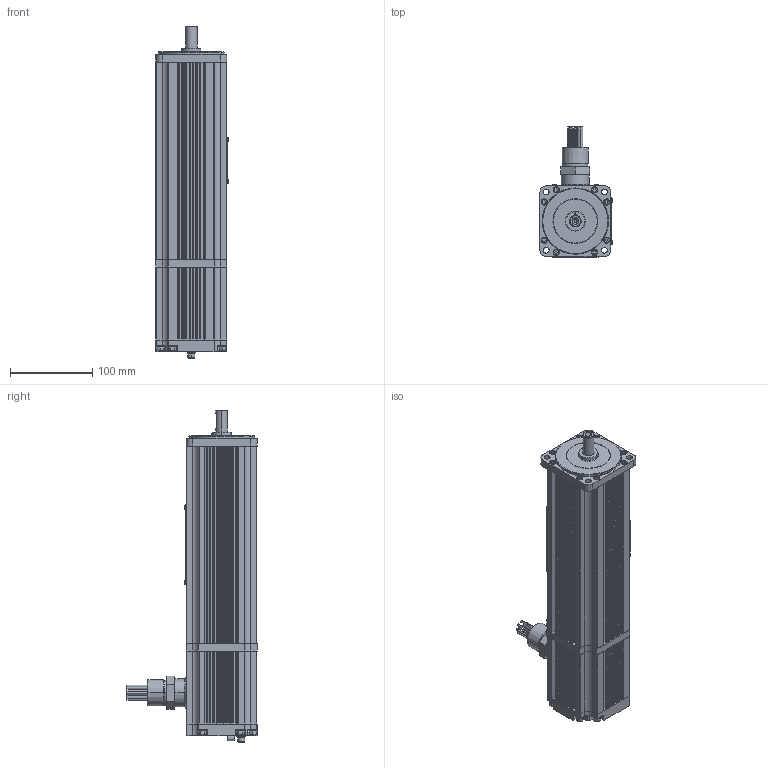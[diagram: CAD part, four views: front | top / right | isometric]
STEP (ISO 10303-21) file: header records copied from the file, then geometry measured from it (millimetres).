
FILE_DESCRIPTION (( 'STEP AP203' ), '1' );
FILE_NAME ('M433-MNN0-CG08.STEP', '2010-09-20T14:07:04', ( '' ), ( '' ), 'SwSTEP 2.0', 'SolidWorks 2010', '' );
FILE_SCHEMA (( 'CONFIG_CONTROL_DESIGN' ));
Length unit declared in the file: inch
Products named in the file (1): M433-MNN0-CG08
Bounding box: 87.61 x 157.81 x 402.94 mm (x, y, z)
Surface area: 364362.8 mm2 (no closed solid volume)
Topology: 0 solids, 201 shells, 1718 faces, 6099 edges, 4542 vertices
Faces by surface type: plane 825, cylinder 673, cone 104, torus 81, bspline 35
Entity records: 74974 total; most frequent: CARTESIAN_POINT 23917, DIRECTION 10615, ORIENTED_EDGE 8877, EDGE_CURVE 6093, VERTEX_POINT 4542, VECTOR 3685, LINE 3685, AXIS2_PLACEMENT_3D 3465
